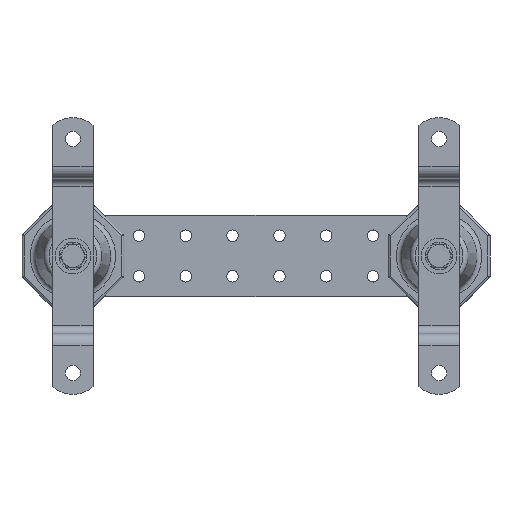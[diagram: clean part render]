
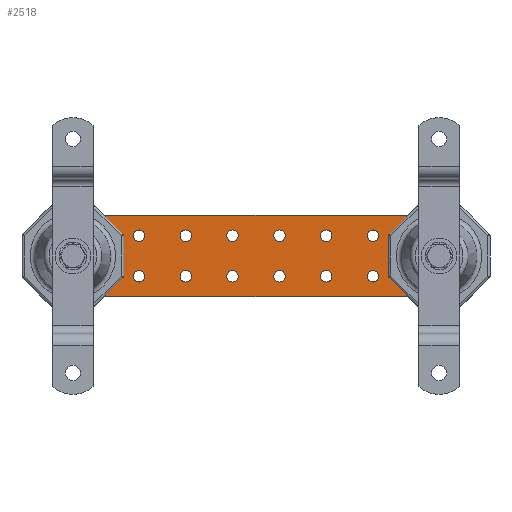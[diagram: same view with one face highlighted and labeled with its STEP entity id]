
A CAD part, front view. The second image highlights one B-rep face of the part: STEP entity #2518.
In plain terms, the highlighted planar face has unit normal (0, -1, 0).
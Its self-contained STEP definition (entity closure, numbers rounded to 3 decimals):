
#224=LINE('',#10821,#356);
#225=LINE('',#10824,#357);
#226=LINE('',#10826,#358);
#227=LINE('',#10828,#359);
#356=VECTOR('',#3700,1000.);
#357=VECTOR('',#3701,1000.);
#358=VECTOR('',#3702,1000.);
#359=VECTOR('',#3703,1000.);
#1101=ORIENTED_EDGE('',*,*,#1461,.T.);
#1102=ORIENTED_EDGE('',*,*,#1462,.T.);
#1103=ORIENTED_EDGE('',*,*,#1463,.T.);
#1104=ORIENTED_EDGE('',*,*,#1464,.T.);
#1105=ORIENTED_EDGE('',*,*,#1465,.T.);
#1106=ORIENTED_EDGE('',*,*,#1466,.T.);
#1107=ORIENTED_EDGE('',*,*,#1467,.T.);
#1108=ORIENTED_EDGE('',*,*,#1468,.T.);
#1109=ORIENTED_EDGE('',*,*,#1469,.T.);
#1110=ORIENTED_EDGE('',*,*,#1470,.T.);
#1111=ORIENTED_EDGE('',*,*,#1471,.T.);
#1112=ORIENTED_EDGE('',*,*,#1472,.T.);
#1113=ORIENTED_EDGE('',*,*,#1473,.T.);
#1114=ORIENTED_EDGE('',*,*,#1474,.T.);
#1115=ORIENTED_EDGE('',*,*,#1475,.T.);
#1116=ORIENTED_EDGE('',*,*,#1476,.T.);
#1117=ORIENTED_EDGE('',*,*,#1477,.T.);
#1118=ORIENTED_EDGE('',*,*,#1478,.T.);
#1461=EDGE_CURVE('',#1678,#1678,#1830,.T.);
#1462=EDGE_CURVE('',#1679,#1679,#1831,.T.);
#1463=EDGE_CURVE('',#1680,#1680,#1832,.T.);
#1464=EDGE_CURVE('',#1681,#1681,#1833,.T.);
#1465=EDGE_CURVE('',#1682,#1682,#1834,.T.);
#1466=EDGE_CURVE('',#1683,#1683,#1835,.T.);
#1467=EDGE_CURVE('',#1684,#1684,#1836,.T.);
#1468=EDGE_CURVE('',#1685,#1685,#1837,.T.);
#1469=EDGE_CURVE('',#1686,#1686,#1838,.T.);
#1470=EDGE_CURVE('',#1687,#1687,#1839,.T.);
#1471=EDGE_CURVE('',#1688,#1688,#1840,.T.);
#1472=EDGE_CURVE('',#1689,#1689,#1841,.T.);
#1473=EDGE_CURVE('',#1690,#1690,#1842,.T.);
#1474=EDGE_CURVE('',#1691,#1691,#1843,.T.);
#1475=EDGE_CURVE('',#1692,#1693,#224,.T.);
#1476=EDGE_CURVE('',#1693,#1694,#225,.T.);
#1477=EDGE_CURVE('',#1694,#1695,#226,.T.);
#1478=EDGE_CURVE('',#1695,#1692,#227,.T.);
#1678=VERTEX_POINT('',#10794);
#1679=VERTEX_POINT('',#10796);
#1680=VERTEX_POINT('',#10798);
#1681=VERTEX_POINT('',#10800);
#1682=VERTEX_POINT('',#10802);
#1683=VERTEX_POINT('',#10804);
#1684=VERTEX_POINT('',#10806);
#1685=VERTEX_POINT('',#10808);
#1686=VERTEX_POINT('',#10810);
#1687=VERTEX_POINT('',#10812);
#1688=VERTEX_POINT('',#10814);
#1689=VERTEX_POINT('',#10816);
#1690=VERTEX_POINT('',#10818);
#1691=VERTEX_POINT('',#10820);
#1692=VERTEX_POINT('',#10822);
#1693=VERTEX_POINT('',#10823);
#1694=VERTEX_POINT('',#10825);
#1695=VERTEX_POINT('',#10827);
#1830=CIRCLE('',#2927,7.144);
#1831=CIRCLE('',#2928,7.144);
#1832=CIRCLE('',#2929,3.572);
#1833=CIRCLE('',#2930,3.572);
#1834=CIRCLE('',#2931,3.572);
#1835=CIRCLE('',#2932,3.572);
#1836=CIRCLE('',#2933,3.572);
#1837=CIRCLE('',#2934,3.572);
#1838=CIRCLE('',#2935,3.572);
#1839=CIRCLE('',#2936,3.572);
#1840=CIRCLE('',#2937,3.572);
#1841=CIRCLE('',#2938,3.572);
#1842=CIRCLE('',#2939,3.572);
#1843=CIRCLE('',#2940,3.572);
#2033=EDGE_LOOP('',(#1101));
#2034=EDGE_LOOP('',(#1102));
#2035=EDGE_LOOP('',(#1103));
#2036=EDGE_LOOP('',(#1104));
#2037=EDGE_LOOP('',(#1105));
#2038=EDGE_LOOP('',(#1106));
#2039=EDGE_LOOP('',(#1107));
#2040=EDGE_LOOP('',(#1108));
#2041=EDGE_LOOP('',(#1109));
#2042=EDGE_LOOP('',(#1110));
#2043=EDGE_LOOP('',(#1111));
#2044=EDGE_LOOP('',(#1112));
#2045=EDGE_LOOP('',(#1113));
#2046=EDGE_LOOP('',(#1114));
#2047=EDGE_LOOP('',(#1115,#1116,#1117,#1118));
#2270=FACE_BOUND('',#2033,.T.);
#2271=FACE_BOUND('',#2034,.T.);
#2272=FACE_BOUND('',#2035,.T.);
#2273=FACE_BOUND('',#2036,.T.);
#2274=FACE_BOUND('',#2037,.T.);
#2275=FACE_BOUND('',#2038,.T.);
#2276=FACE_BOUND('',#2039,.T.);
#2277=FACE_BOUND('',#2040,.T.);
#2278=FACE_BOUND('',#2041,.T.);
#2279=FACE_BOUND('',#2042,.T.);
#2280=FACE_BOUND('',#2043,.T.);
#2281=FACE_BOUND('',#2044,.T.);
#2282=FACE_BOUND('',#2045,.T.);
#2283=FACE_BOUND('',#2046,.T.);
#2284=FACE_BOUND('',#2047,.T.);
#2370=PLANE('',#2926);
#2518=ADVANCED_FACE('',(#2270,#2271,#2272,#2273,#2274,#2275,#2276,#2277,
#2278,#2279,#2280,#2281,#2282,#2283,#2284),#2370,.F.);
#2926=AXIS2_PLACEMENT_3D('',#10792,#3670,#3671);
#2927=AXIS2_PLACEMENT_3D('',#10793,#3672,#3673);
#2928=AXIS2_PLACEMENT_3D('',#10795,#3674,#3675);
#2929=AXIS2_PLACEMENT_3D('',#10797,#3676,#3677);
#2930=AXIS2_PLACEMENT_3D('',#10799,#3678,#3679);
#2931=AXIS2_PLACEMENT_3D('',#10801,#3680,#3681);
#2932=AXIS2_PLACEMENT_3D('',#10803,#3682,#3683);
#2933=AXIS2_PLACEMENT_3D('',#10805,#3684,#3685);
#2934=AXIS2_PLACEMENT_3D('',#10807,#3686,#3687);
#2935=AXIS2_PLACEMENT_3D('',#10809,#3688,#3689);
#2936=AXIS2_PLACEMENT_3D('',#10811,#3690,#3691);
#2937=AXIS2_PLACEMENT_3D('',#10813,#3692,#3693);
#2938=AXIS2_PLACEMENT_3D('',#10815,#3694,#3695);
#2939=AXIS2_PLACEMENT_3D('',#10817,#3696,#3697);
#2940=AXIS2_PLACEMENT_3D('',#10819,#3698,#3699);
#3670=DIRECTION('',(0.,1.,0.));
#3671=DIRECTION('',(0.,0.,1.));
#3672=DIRECTION('',(0.,1.,0.));
#3673=DIRECTION('',(1.,0.,0.));
#3674=DIRECTION('',(0.,1.,0.));
#3675=DIRECTION('',(1.,0.,0.));
#3676=DIRECTION('',(0.,1.,0.));
#3677=DIRECTION('',(1.,0.,0.));
#3678=DIRECTION('',(0.,1.,0.));
#3679=DIRECTION('',(1.,0.,0.));
#3680=DIRECTION('',(0.,1.,0.));
#3681=DIRECTION('',(1.,0.,0.));
#3682=DIRECTION('',(0.,1.,0.));
#3683=DIRECTION('',(1.,0.,0.));
#3684=DIRECTION('',(0.,1.,0.));
#3685=DIRECTION('',(1.,0.,0.));
#3686=DIRECTION('',(0.,1.,0.));
#3687=DIRECTION('',(1.,0.,0.));
#3688=DIRECTION('',(0.,1.,0.));
#3689=DIRECTION('',(1.,0.,0.));
#3690=DIRECTION('',(0.,1.,0.));
#3691=DIRECTION('',(1.,0.,0.));
#3692=DIRECTION('',(0.,1.,0.));
#3693=DIRECTION('',(1.,0.,0.));
#3694=DIRECTION('',(0.,1.,0.));
#3695=DIRECTION('',(1.,0.,0.));
#3696=DIRECTION('',(0.,1.,0.));
#3697=DIRECTION('',(1.,0.,0.));
#3698=DIRECTION('',(0.,1.,0.));
#3699=DIRECTION('',(1.,0.,0.));
#3700=DIRECTION('',(-1.,0.,0.));
#3701=DIRECTION('',(0.,0.,-1.));
#3702=DIRECTION('',(1.,0.,0.));
#3703=DIRECTION('',(0.,0.,1.));
#10792=CARTESIAN_POINT('',(0.,0.,0.));
#10793=CARTESIAN_POINT('',(114.3,0.,0.));
#10794=CARTESIAN_POINT('',(121.444,0.,0.));
#10795=CARTESIAN_POINT('',(-114.3,0.,0.));
#10796=CARTESIAN_POINT('',(-107.156,0.,0.));
#10797=CARTESIAN_POINT('',(-73.025,0.,12.7));
#10798=CARTESIAN_POINT('',(-69.453,0.,12.7));
#10799=CARTESIAN_POINT('',(-43.815,0.,12.7));
#10800=CARTESIAN_POINT('',(-40.243,0.,12.7));
#10801=CARTESIAN_POINT('',(-14.605,0.,12.7));
#10802=CARTESIAN_POINT('',(-11.033,0.,12.7));
#10803=CARTESIAN_POINT('',(14.605,0.,12.7));
#10804=CARTESIAN_POINT('',(18.177,0.,12.7));
#10805=CARTESIAN_POINT('',(43.815,0.,12.7));
#10806=CARTESIAN_POINT('',(47.387,0.,12.7));
#10807=CARTESIAN_POINT('',(73.025,0.,-12.7));
#10808=CARTESIAN_POINT('',(76.597,0.,-12.7));
#10809=CARTESIAN_POINT('',(73.025,0.,12.7));
#10810=CARTESIAN_POINT('',(76.597,0.,12.7));
#10811=CARTESIAN_POINT('',(43.815,0.,-12.7));
#10812=CARTESIAN_POINT('',(47.387,0.,-12.7));
#10813=CARTESIAN_POINT('',(14.605,0.,-12.7));
#10814=CARTESIAN_POINT('',(18.177,0.,-12.7));
#10815=CARTESIAN_POINT('',(-14.605,0.,-12.7));
#10816=CARTESIAN_POINT('',(-11.033,0.,-12.7));
#10817=CARTESIAN_POINT('',(-43.815,0.,-12.7));
#10818=CARTESIAN_POINT('',(-40.243,0.,-12.7));
#10819=CARTESIAN_POINT('',(-73.025,0.,-12.7));
#10820=CARTESIAN_POINT('',(-69.453,0.,-12.7));
#10821=CARTESIAN_POINT('',(127.,0.,25.4));
#10822=CARTESIAN_POINT('',(127.,0.,25.4));
#10823=CARTESIAN_POINT('',(-127.,0.,25.4));
#10824=CARTESIAN_POINT('',(-127.,0.,25.4));
#10825=CARTESIAN_POINT('',(-127.,0.,-25.4));
#10826=CARTESIAN_POINT('',(-127.,0.,-25.4));
#10827=CARTESIAN_POINT('',(127.,0.,-25.4));
#10828=CARTESIAN_POINT('',(127.,0.,-25.4));
